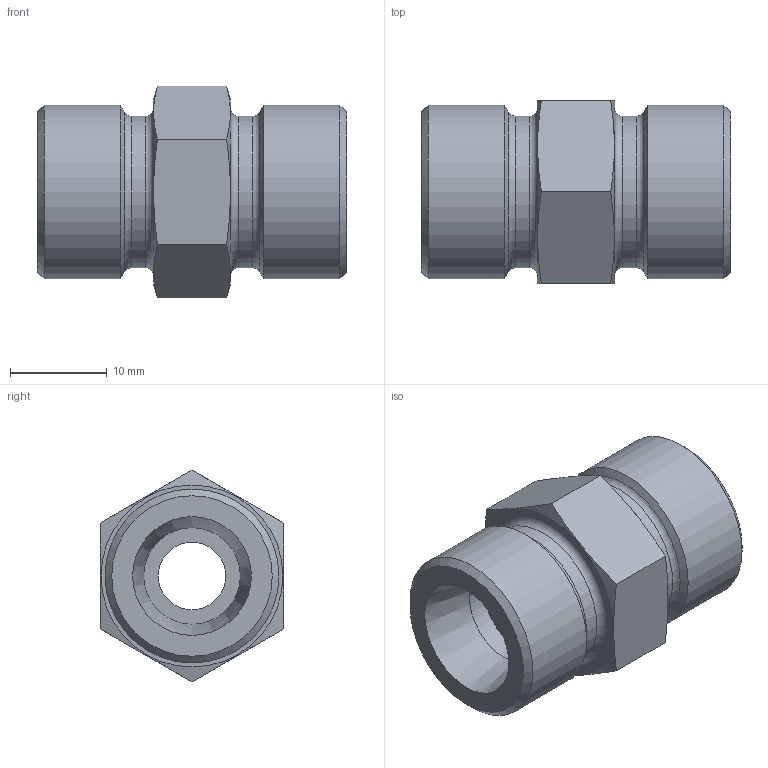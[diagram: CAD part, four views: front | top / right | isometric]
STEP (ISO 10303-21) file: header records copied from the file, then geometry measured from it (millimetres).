
FILE_DESCRIPTION( ( 'Unknown' ), '1' );
FILE_NAME( 'C:/Users/p.nanko/Desktop/3D SR/XG10S.stp', 'Unknown', ( 'Peter Nanko' ), ( 'Armaturen Arndt' ), 'PSStep 14.0', 'Solid Edge ST4', ' ' );
FILE_SCHEMA( ( 'AUTOMOTIVE_DESIGN { 1 0 10303 214 1 1 1 1 }' ) );
Length unit declared in the file: millimetre
Products named in the file (1): 1
Bounding box: 32 x 19 x 21.94 mm (x, y, z)
Volume: 6169.8 mm3; surface area: 3284.7 mm2
Topology: 1 solids, 1 shells, 31 faces, 65 edges, 40 vertices
Faces by surface type: plane 12, cone 8, cylinder 7, torus 4
Full cylindrical faces by diameter (mm): 7 x1, 10 x2, 15.7 x2, 18 x2
Entity records: 1036 total; most frequent: CARTESIAN_POINT 210, DIRECTION 118, ORIENTED_EDGE 84, AXIS2_PLACEMENT_3D 56, EDGE_LOOP 56, FACE_OUTER_BOUND 42, EDGE_CURVE 42, VERTEX_POINT 36
